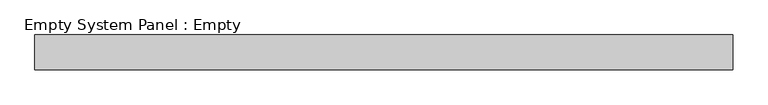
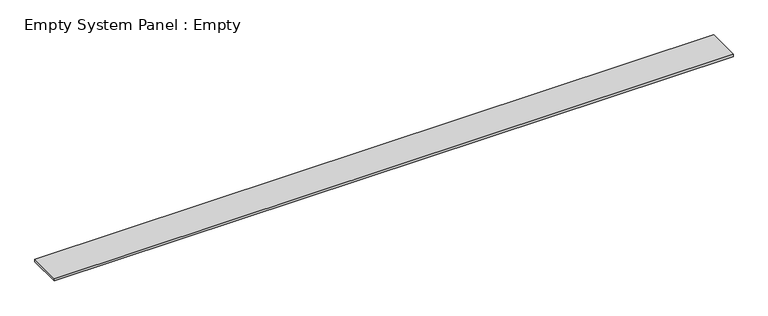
"""IFC4 building model written with IfcOpenShell, lengths in millimetres: plate geometry, Empty System Panel : Empty."""

import ifcopenshell
import ifcopenshell.guid

model = None  # the IFC model being written
_history = None  # IfcOwnerHistory: only IFC2X3 demands one
_inside = {}  # id of a spatial element -> (the spatial element, [elements in it])
_under = {}  # id of a project, library or spatial element -> (it, [spatial elements below it])
_declared = {}  # id of a project -> (the project, [libraries it declares])
_typed = {}  # id of a type object -> (the type object, [elements of that type])
_made_of = {}  # id of a material, layer set ... -> (it, [elements and type objects made of it])


def new_model(schema):
    """Start an empty IFC model of exactly this schema.

    Asked for "IFC4X3", IfcOpenShell would pick the latest addendum, in which some entities
    have other attributes; the version numbers below select the first issue.
    IFC2X3 requires an IfcOwnerHistory on every rooted entity: one is made here for all.
    """
    global model, _history
    if schema == "IFC4X3":
        model = ifcopenshell.file(schema_version=(4, 3, 0, 0))
    else:
        model = ifcopenshell.file(schema=schema)
    _inside.clear()
    _under.clear()
    _declared.clear()
    _typed.clear()
    _made_of.clear()
    _history = None
    if model.schema == "IFC2X3":
        org = make("IfcOrganization", Name="unknown")
        user = make(
            "IfcPersonAndOrganization",
            ThePerson=make("IfcPerson", FamilyName="unknown"),
            TheOrganization=org,
        )
        app = make(
            "IfcApplication",
            ApplicationDeveloper=org,
            Version="unknown",
            ApplicationFullName="unknown",
            ApplicationIdentifier="unknown",
        )
        _history = make(
            "IfcOwnerHistory",
            OwningUser=user,
            OwningApplication=app,
            ChangeAction="ADDED",
            CreationDate=0,
        )
    return model


def make(cls, **values):
    """One entity of the class cls with the attributes given. An attribute that is None is left unset."""
    return model.create_entity(
        cls, **{name: value for name, value in values.items() if value is not None}
    )


def rooted(cls, **values):
    """An entity with a GlobalId (a new one), such as an element, a storey or a relation."""
    return make(cls, GlobalId=ifcopenshell.guid.new(), OwnerHistory=_history, **values)


def si_unit(unit_type, name, prefix=None):
    """IfcSIUnit, for example si_unit("LENGTHUNIT", "METRE", prefix="MILLI")."""
    return make("IfcSIUnit", UnitType=unit_type, Prefix=prefix, Name=name)


def assignment(units):
    """IfcUnitAssignment: the units of a project."""
    return None if units is None else make("IfcUnitAssignment", Units=units)


def point(xyz):
    """IfcCartesianPoint."""
    return None if xyz is None else make("IfcCartesianPoint", Coordinates=xyz)


def direction(xyz):
    """IfcDirection."""
    return None if xyz is None else make("IfcDirection", DirectionRatios=xyz)


def frame(location, z_axis=None, x_axis=None):
    """IfcAxis2Placement3D, a coordinate frame: its origin and axes. An axis left out is left unset."""
    return make(
        "IfcAxis2Placement3D",
        Location=point(location),
        Axis=direction(z_axis),
        RefDirection=direction(x_axis),
    )


def origin():
    """The frame at (0, 0, 0) with its axes left unset."""
    return frame((0.0, 0.0, 0.0))


def origin_with_axes():
    """The frame at (0, 0, 0) with the z axis (0, 0, 1) and the x axis (1, 0, 0) written out."""
    return frame((0.0, 0.0, 0.0), z_axis=(0.0, 0.0, 1.0), x_axis=(1.0, 0.0, 0.0))


def place(relative_to, where):
    """IfcLocalPlacement: puts the frame where relative to a parent placement (None: the world)."""
    return make(
        "IfcLocalPlacement", PlacementRelTo=relative_to, RelativePlacement=where
    )


def context(
    kind, dimensions, precision=None, world=None, true_north=None, identifier=None
):
    """IfcGeometricRepresentationContext, for example the 3D "Model" context."""
    return make(
        "IfcGeometricRepresentationContext",
        ContextIdentifier=identifier,
        ContextType=kind,
        CoordinateSpaceDimension=dimensions,
        Precision=precision,
        WorldCoordinateSystem=world,
        TrueNorth=true_north,
    )


def project(units=None, contexts=None):
    """IfcProject with its units and contexts."""
    return rooted(
        "IfcProject",
        Name="project",
        RepresentationContexts=contexts,
        UnitsInContext=assignment(units),
    )


def spatial(cls, under=None, at=None, **own):
    """A site, building, storey or space (cls), placed at a placement, below another one or the project."""
    s = rooted(cls, ObjectPlacement=at, **own)
    if under is not None:
        _under.setdefault(under.id(), (under, []))[1].append(s)
    return s


def polyline(points):
    """IfcPolyline through the points."""
    return make("IfcPolyline", Points=[point(p) for p in points])


def outline(outer, holes=None, kind="AREA"):
    """IfcArbitraryClosedProfileDef: a profile drawn as a closed curve; with holes, ...WithVoids."""
    if holes is None:
        return make("IfcArbitraryClosedProfileDef", ProfileType=kind, OuterCurve=outer)
    return make(
        "IfcArbitraryProfileDefWithVoids",
        ProfileType=kind,
        OuterCurve=outer,
        InnerCurves=holes,
    )


def extrude(swept, where, along, depth):
    """IfcExtrudedAreaSolid: the profile swept, set in the frame where, extruded along a direction by depth."""
    return make(
        "IfcExtrudedAreaSolid",
        SweptArea=swept,
        Position=where,
        ExtrudedDirection=direction(along),
        Depth=depth,
    )


def shape(context_of_items, identifier, shape_type, items):
    """IfcShapeRepresentation: the items that make up one representation, for example the "Body"."""
    return make(
        "IfcShapeRepresentation",
        ContextOfItems=context_of_items,
        RepresentationIdentifier=identifier,
        RepresentationType=shape_type,
        Items=items,
    )


def source(mapping_origin, context_of_items, identifier, shape_type, items):
    """IfcRepresentationMap: a shape defined once, which mapped items show again and again."""
    return make(
        "IfcRepresentationMap",
        MappingOrigin=mapping_origin,
        MappedRepresentation=shape(context_of_items, identifier, shape_type, items),
    )


def transform(
    local_origin,
    x_axis=None,
    y_axis=None,
    z_axis=None,
    scale=None,
    scale2=None,
    scale3=None,
    uniform=True,
):
    """IfcCartesianTransformationOperator3D, or its non-uniform kind. x_axis, y_axis, z_axis: its Axis1, 2, 3."""
    if uniform:
        return make(
            "IfcCartesianTransformationOperator3D",
            Axis1=direction(x_axis),
            Axis2=direction(y_axis),
            LocalOrigin=point(local_origin),
            Scale=scale,
            Axis3=direction(z_axis),
        )
    return make(
        "IfcCartesianTransformationOperator3DnonUniform",
        Axis1=direction(x_axis),
        Axis2=direction(y_axis),
        LocalOrigin=point(local_origin),
        Scale=scale,
        Axis3=direction(z_axis),
        Scale2=scale2,
        Scale3=scale3,
    )


def mapped(mapping_source, mapping_target):
    """IfcMappedItem: shows the shape of a source again, moved by a transform."""
    return make(
        "IfcMappedItem", MappingSource=mapping_source, MappingTarget=mapping_target
    )


def made_of(thing, what):
    """Note that an element or type object is made of a material, layer set ...; save() writes the relation."""
    if what is not None:
        _made_of.setdefault(what.id(), (what, []))[1].append(thing)
    return thing


def element(
    cls,
    number,
    at=None,
    inside=None,
    cuts=None,
    type_object=None,
    material=None,
    context=None,
    identifier="Body",
    shape_type=None,
    held_by="IfcProductDefinitionShape",
    body=None,
    shapes=None,
    **own,
):
    """One element of the class cls, such as IfcWall. Its Tag is "e" and its number.

    at: its placement. inside: the storey or other place that contains it. cuts: it is an
    opening in that element (IfcRelVoidsElement). A single representation is given by context,
    identifier, shape_type and body (its items); several are given by shapes. held_by: the class
    of the entity that holds the representations. save() writes the other relations.
    """
    e = rooted(cls, Tag="e%d" % number, ObjectPlacement=at, **own)
    if body is not None:
        shapes = [shape(context, identifier, shape_type, body)]
    if shapes is not None:
        e.Representation = make(held_by, Representations=shapes)
    if inside is not None:
        _inside.setdefault(inside.id(), (inside, []))[1].append(e)
    if cuts is not None:
        rooted(
            "IfcRelVoidsElement", RelatingBuildingElement=cuts, RelatedOpeningElement=e
        )
    if type_object is not None:
        _typed.setdefault(type_object.id(), (type_object, []))[1].append(e)
    return made_of(e, material)


def aggregate(whole, parts):
    """IfcRelAggregates: a whole, such as a stair, and the parts it consists of."""
    return rooted("IfcRelAggregates", RelatingObject=whole, RelatedObjects=parts)


def save(model, path):
    """Write the relations noted so far, then the file.

    IfcRelAggregates (storeys below a building ...), IfcRelContainedInSpatialStructure (elements
    in a storey), IfcRelDefinesByType, IfcRelAssociatesMaterial and IfcRelDeclares: one each for
    every whole, place, type object, material and project.
    """
    for whole, parts in _under.values():
        aggregate(whole, parts)
    for where, things in _inside.values():
        rooted(
            "IfcRelContainedInSpatialStructure",
            RelatedElements=things,
            RelatingStructure=where,
        )
    for kind, things in _typed.values():
        rooted("IfcRelDefinesByType", RelatedObjects=things, RelatingType=kind)
    for what, things in _made_of.values():
        rooted("IfcRelAssociatesMaterial", RelatedObjects=things, RelatingMaterial=what)
    for by, libraries in _declared.values():
        rooted("IfcRelDeclares", RelatingContext=by, RelatedDefinitions=libraries)
    model.write(path)


def empty_system_panel_empty_c620d78e(model_context):
    return source(origin(), model_context, "Body", "SweptSolid", [
        extrude(outline(polyline([(1000.0, -50.0), (-1000.0, -50.0), (-1000.0, 50.0), (1000.0, 50.0), (1000.0, -50.0)])), origin_with_axes(), (0.0, 0.0, 1.0), 7.5),
    ])


if __name__ == "__main__":
    model = new_model("IFC4")
    model_context = context("Model", 3, world=origin())
    ifc_project = project(units=[si_unit("LENGTHUNIT", "METRE", prefix="MILLI")], contexts=[model_context])
    site = spatial("IfcSite", under=ifc_project)
    building = spatial("IfcBuilding", under=site)
    placement = place(None, origin())
    empty_system_panel_empty_shape = empty_system_panel_empty_c620d78e(model_context)
    element("IfcPlate", 1, ObjectType="Empty System Panel : Empty", at=placement, inside=building, context=model_context, shape_type="MappedRepresentation", body=[
        mapped(empty_system_panel_empty_shape, transform((0.0, 0.0, 0.0), x_axis=(1.0, 0.0, 0.0), y_axis=(0.0, 1.0, 0.0), z_axis=(0.0, 0.0, 1.0))),
    ])
    save(model, "model.ifc")
